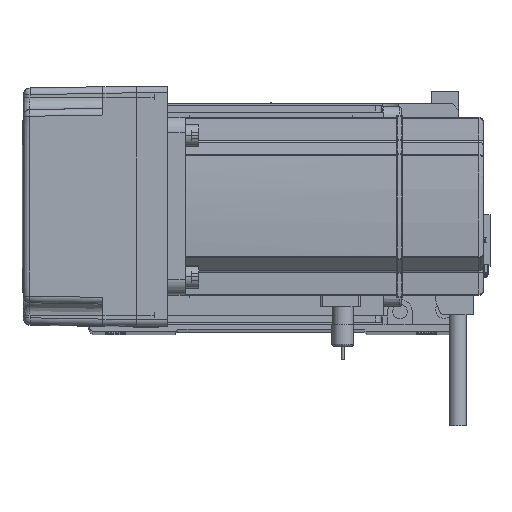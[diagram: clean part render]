
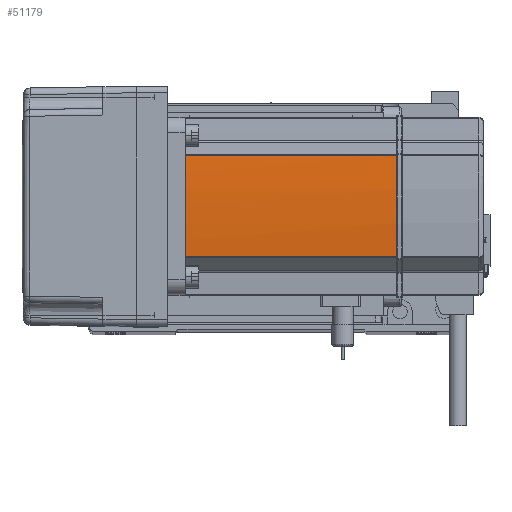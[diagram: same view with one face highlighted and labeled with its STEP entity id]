
A CAD part, top view. The second image highlights one B-rep face of the part: STEP entity #51179.
In plain terms, the highlighted cylindrical face has radius 270 mm (diameter 540 mm), a partial arc.
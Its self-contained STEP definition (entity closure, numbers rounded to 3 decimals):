
#130 = DIRECTION ( 'NONE',  ( -1., 0., 0. ) ) ;
#1817 = CYLINDRICAL_SURFACE ( 'NONE', #25088, 270. ) ;
#4057 = CARTESIAN_POINT ( 'NONE',  ( 40., -0.042, 134. ) ) ;
#4359 = B_SPLINE_CURVE_WITH_KNOTS ( 'NONE', 3,
 ( #48263, #4057, #23020, #18734 ),
 .UNSPECIFIED., .F., .F.,
 ( 4, 4 ),
 ( 0., 1. ),
 .UNSPECIFIED. ) ;
#10820 = CIRCLE ( 'NONE', #54957, 270. ) ;
#10828 = FACE_OUTER_BOUND ( 'NONE', #30559, .T. ) ;
#10976 = DIRECTION ( 'NONE',  ( 0., 0., -1. ) ) ;
#12341 = EDGE_CURVE ( 'NONE', #53982, #38440, #10820, .T. ) ;
#13069 = LINE ( 'NONE', #15592, #54495 ) ;
#13643 = DIRECTION ( 'NONE',  ( -1., 0., 0. ) ) ;
#15592 = CARTESIAN_POINT ( 'NONE',  ( 39.042, -22.724, 58. ) ) ;
#18193 = ORIENTED_EDGE ( 'NONE', *, *, #40141, .T. ) ;
#18247 = AXIS2_PLACEMENT_3D ( 'NONE', #29317, #56135, #21010 ) ;
#18734 = CARTESIAN_POINT ( 'NONE',  ( 40., 0.127, 134. ) ) ;
#20660 = EDGE_CURVE ( 'NONE', #28997, #43302, #34581, .T. ) ;
#21010 = DIRECTION ( 'NONE',  ( -1., 0., 0. ) ) ;
#21427 = EDGE_CURVE ( 'NONE', #22613, #35483, #27645, .T. ) ;
#21906 = DIRECTION ( 'NONE',  ( -1., 0., 0. ) ) ;
#22613 = VERTEX_POINT ( 'NONE', #30441 ) ;
#23020 = CARTESIAN_POINT ( 'NONE',  ( 40., 0.042, 134. ) ) ;
#23821 = CARTESIAN_POINT ( 'NONE',  ( 39.042, 22.724, 39. ) ) ;
#25088 = AXIS2_PLACEMENT_3D ( 'NONE', #31760, #40100, #13643 ) ;
#25730 = AXIS2_PLACEMENT_3D ( 'NONE', #53139, #44659, #21906 ) ;
#26354 = ORIENTED_EDGE ( 'NONE', *, *, #35568, .F. ) ;
#26653 = CARTESIAN_POINT ( 'NONE',  ( -230., 0., 134. ) ) ;
#27064 = LINE ( 'NONE', #41062, #29796 ) ;
#27645 = CIRCLE ( 'NONE', #18247, 270. ) ;
#28997 = VERTEX_POINT ( 'NONE', #23821 ) ;
#29317 = CARTESIAN_POINT ( 'NONE',  ( -230., 0., 134. ) ) ;
#29577 = CARTESIAN_POINT ( 'NONE',  ( 40., 0.127, 134. ) ) ;
#29796 = VECTOR ( 'NONE', #44928, 1000. ) ;
#30441 = CARTESIAN_POINT ( 'NONE',  ( 39.042, 22.724, 134. ) ) ;
#30559 = EDGE_LOOP ( 'NONE', ( #54458, #42736, #18193, #35035, #26354, #56535 ) ) ;
#31760 = CARTESIAN_POINT ( 'NONE',  ( -230., 0., 58. ) ) ;
#32807 = CARTESIAN_POINT ( 'NONE',  ( 39.042, -22.724, 39. ) ) ;
#34581 = CIRCLE ( 'NONE', #25730, 270. ) ;
#35035 = ORIENTED_EDGE ( 'NONE', *, *, #21427, .T. ) ;
#35483 = VERTEX_POINT ( 'NONE', #29577 ) ;
#35568 = EDGE_CURVE ( 'NONE', #53982, #35483, #4359, .T. ) ;
#35839 = DIRECTION ( 'NONE',  ( 0., 0., -1. ) ) ;
#38040 = CARTESIAN_POINT ( 'NONE',  ( 39.042, -22.724, 134. ) ) ;
#38440 = VERTEX_POINT ( 'NONE', #38040 ) ;
#40100 = DIRECTION ( 'NONE',  ( 0., 0., -1. ) ) ;
#40141 = EDGE_CURVE ( 'NONE', #28997, #22613, #27064, .T. ) ;
#41062 = CARTESIAN_POINT ( 'NONE',  ( 39.042, 22.724, 58. ) ) ;
#42736 = ORIENTED_EDGE ( 'NONE', *, *, #20660, .F. ) ;
#43302 = VERTEX_POINT ( 'NONE', #32807 ) ;
#44659 = DIRECTION ( 'NONE',  ( 0., 0., -1. ) ) ;
#44928 = DIRECTION ( 'NONE',  ( 0., 0., 1. ) ) ;
#47871 = CARTESIAN_POINT ( 'NONE',  ( 40., -0.127, 134. ) ) ;
#48263 = CARTESIAN_POINT ( 'NONE',  ( 40., -0.127, 134. ) ) ;
#51179 = ADVANCED_FACE ( 'NONE', ( #10828 ), #1817, .T. ) ;
#53139 = CARTESIAN_POINT ( 'NONE',  ( -230., 0., 39. ) ) ;
#53982 = VERTEX_POINT ( 'NONE', #47871 ) ;
#54458 = ORIENTED_EDGE ( 'NONE', *, *, #55713, .T. ) ;
#54495 = VECTOR ( 'NONE', #10976, 1000. ) ;
#54957 = AXIS2_PLACEMENT_3D ( 'NONE', #26653, #35839, #130 ) ;
#55713 = EDGE_CURVE ( 'NONE', #38440, #43302, #13069, .T. ) ;
#56135 = DIRECTION ( 'NONE',  ( 0., 0., -1. ) ) ;
#56535 = ORIENTED_EDGE ( 'NONE', *, *, #12341, .T. ) ;
